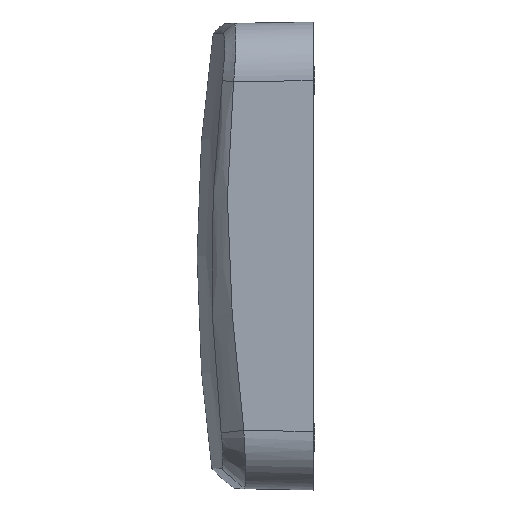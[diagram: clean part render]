
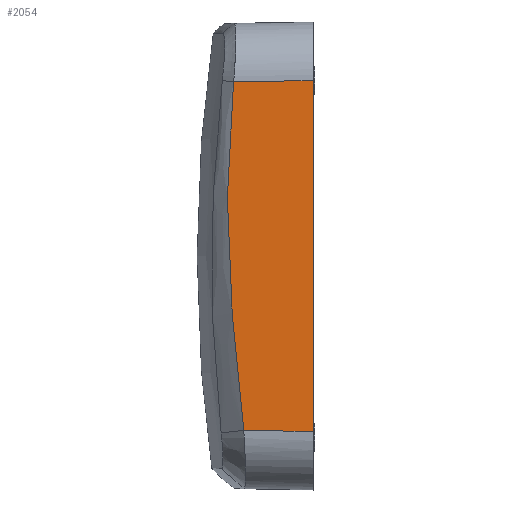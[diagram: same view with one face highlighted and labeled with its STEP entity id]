
A CAD part, left-side view. The second image highlights one B-rep face of the part: STEP entity #2054.
In plain terms, the highlighted planar face has unit normal (-1, 0.018, 0).
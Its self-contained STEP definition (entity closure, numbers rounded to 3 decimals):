
#61 = CARTESIAN_POINT ( 'NONE',  ( -44.763, 25.59, 29.764 ) ) ;
#140 = CARTESIAN_POINT ( 'NONE',  ( -44.788, 24.155, -27.085 ) ) ;
#183 = CARTESIAN_POINT ( 'NONE',  ( -44.779, 24.665, -22.37 ) ) ;
#238 = DIRECTION ( 'NONE',  ( -0.017, -1., -0.017 ) ) ;
#444 = VERTEX_POINT ( 'NONE', #7991 ) ;
#626 = CARTESIAN_POINT ( 'NONE',  ( -44.746, 26.579, 15.422 ) ) ;
#709 = CARTESIAN_POINT ( 'NONE',  ( -44.758, 25.862, 27.385 ) ) ;
#711 = VECTOR ( 'NONE', #238, 1000. ) ;
#788 = CARTESIAN_POINT ( 'NONE',  ( -44.766, 25.396, -14.947 ) ) ;
#869 = CARTESIAN_POINT ( 'NONE',  ( -44.793, 23.842, -29.795 ) ) ;
#874 = CARTESIAN_POINT ( 'NONE',  ( -44.775, 24.898, -20.128 ) ) ;
#1089 = AXIS2_PLACEMENT_3D ( 'NONE', #3952, #2734, #5943 ) ;
#1138 = DIRECTION ( 'NONE',  ( 0.017, 1., -0.017 ) ) ;
#1441 = CARTESIAN_POINT ( 'NONE',  ( -44.765, 25.446, -14.385 ) ) ;
#1486 = CARTESIAN_POINT ( 'NONE',  ( -44.75, 26.319, -2.364 ) ) ;
#1525 = CARTESIAN_POINT ( 'NONE',  ( -44.748, 26.421, -0.048 ) ) ;
#1568 = CARTESIAN_POINT ( 'NONE',  ( -44.766, 25.407, -14.822 ) ) ;
#1581 = ORIENTED_EDGE ( 'NONE', *, *, #1728, .T. ) ;
#1728 = EDGE_CURVE ( 'NONE', #3769, #444, #1786, .T. ) ;
#1786 = LINE ( 'NONE', #7158, #8306 ) ;
#2054 = ADVANCED_FACE ( 'NONE', ( #4706 ), #6110, .T. ) ;
#2087 = CARTESIAN_POINT ( 'NONE',  ( -44.779, 24.678, -22.247 ) ) ;
#2170 = CARTESIAN_POINT ( 'NONE',  ( -44.766, 25.42, -14.676 ) ) ;
#2215 = CARTESIAN_POINT ( 'NONE',  ( -44.748, 26.444, 0.503 ) ) ;
#2535 = CARTESIAN_POINT ( 'NONE',  ( -44.745, 26.592, 14.896 ) ) ;
#2694 = CARTESIAN_POINT ( 'NONE',  ( -44.745, 26.586, 15.139 ) ) ;
#2732 = CARTESIAN_POINT ( 'NONE',  ( -44.747, 26.511, 2.209 ) ) ;
#2734 = DIRECTION ( 'NONE',  ( -1., 0.017, 0. ) ) ;
#2775 = CARTESIAN_POINT ( 'NONE',  ( -44.744, 26.671, 8.868 ) ) ;
#2852 = CARTESIAN_POINT ( 'NONE',  ( -44.766, 25.4, -14.895 ) ) ;
#2896 = CARTESIAN_POINT ( 'NONE',  ( -44.779, 24.668, -22.35 ) ) ;
#3004 = CARTESIAN_POINT ( 'NONE',  ( -45., 12., -40. ) ) ;
#3141 = VERTEX_POINT ( 'NONE', #869 ) ;
#3342 = CARTESIAN_POINT ( 'NONE',  ( -44.746, 26.563, 15.986 ) ) ;
#3419 = CARTESIAN_POINT ( 'NONE',  ( -44.771, 25.119, -17.93 ) ) ;
#3499 = CARTESIAN_POINT ( 'NONE',  ( -44.764, 25.498, -13.804 ) ) ;
#3607 = LINE ( 'NONE', #7488, #711 ) ;
#3769 = VERTEX_POINT ( 'NONE', #4096 ) ;
#3821 = CARTESIAN_POINT ( 'NONE',  ( -44.745, 26.591, 14.937 ) ) ;
#3909 = CARTESIAN_POINT ( 'NONE',  ( -44.748, 26.438, 19.343 ) ) ;
#3952 = CARTESIAN_POINT ( 'NONE',  ( -45., 12., -40. ) ) ;
#4009 = ORIENTED_EDGE ( 'NONE', *, *, #7100, .T. ) ;
#4068 = CARTESIAN_POINT ( 'NONE',  ( -44.747, 26.468, 1.074 ) ) ;
#4096 = CARTESIAN_POINT ( 'NONE',  ( -45., 12., 30.002 ) ) ;
#4109 = CARTESIAN_POINT ( 'NONE',  ( -44.777, 24.783, -21.251 ) ) ;
#4373 = LINE ( 'NONE', #3004, #6931 ) ;
#4706 = FACE_OUTER_BOUND ( 'NONE', #7091, .T. ) ;
#4742 = CARTESIAN_POINT ( 'NONE',  ( -44.759, 25.786, -10.375 ) ) ;
#4782 = CARTESIAN_POINT ( 'NONE',  ( -44.778, 24.693, -22.104 ) ) ;
#4829 = CARTESIAN_POINT ( 'NONE',  ( -44.748, 26.432, 0.218 ) ) ;
#5157 = CARTESIAN_POINT ( 'NONE',  ( -44.744, 26.65, 12.5 ) ) ;
#5365 = CARTESIAN_POINT ( 'NONE',  ( -44.745, 26.583, 4.457 ) ) ;
#5475 = CARTESIAN_POINT ( 'NONE',  ( -45., 12., -30.002 ) ) ;
#5531 = CARTESIAN_POINT ( 'NONE',  ( -44.748, 26.423, 0.003 ) ) ;
#5532 = B_SPLINE_CURVE_WITH_KNOTS ( 'NONE', 3,
 ( #61, #709, #7921, #3909, #8497, #3342, #626, #2694, #8002, #3821, #2535, #5806, #5157, #2775, #5365, #2732, #4068, #2215, #4829, #7380, #5531, #8044, #1525, #7422, #1486, #6716, #4742, #7510, #3499, #1441, #2170, #1568, #2852, #6184, #788, #8169, #6840, #3419, #874, #4109, #6062, #4782, #2087, #6107, #2896, #183, #8215, #8089, #140, #7465 ),
 .UNSPECIFIED., .F., .F.,
 ( 4, 1, 1, 1, 1, 1, 1, 1, 2, 2, 1, 1, 1, 1, 1, 1, 1, 1, 2, 2, 1, 1, 1, 1, 1, 1, 1, 1, 2, 2, 1, 1, 1, 1, 1, 1, 1, 2, 2, 4 ),
 ( 0., 0.125, 0.188, 0.219, 0.234, 0.242, 0.246, 0.248, 0.249, 0.25, 0.375, 0.437, 0.469, 0.484, 0.492, 0.496, 0.498, 0.499, 0.5, 0.5, 0.625, 0.687, 0.719, 0.734, 0.742, 0.746, 0.748, 0.749, 0.75, 0.75, 0.812, 0.844, 0.859, 0.867, 0.871, 0.873, 0.874, 0.875, 0.875, 1. ),
 .UNSPECIFIED. ) ;
#5806 = CARTESIAN_POINT ( 'NONE',  ( -44.745, 26.593, 14.874 ) ) ;
#5943 = DIRECTION ( 'NONE',  ( -0.017, -1., 0. ) ) ;
#6062 = CARTESIAN_POINT ( 'NONE',  ( -44.778, 24.723, -21.819 ) ) ;
#6107 = CARTESIAN_POINT ( 'NONE',  ( -44.779, 24.671, -22.319 ) ) ;
#6110 = PLANE ( 'NONE',  #1089 ) ;
#6184 = CARTESIAN_POINT ( 'NONE',  ( -44.766, 25.398, -14.926 ) ) ;
#6596 = ORIENTED_EDGE ( 'NONE', *, *, #6893, .T. ) ;
#6716 = CARTESIAN_POINT ( 'NONE',  ( -44.754, 26.116, -5.947 ) ) ;
#6740 = EDGE_CURVE ( 'NONE', #3141, #7192, #3607, .T. ) ;
#6840 = CARTESIAN_POINT ( 'NONE',  ( -44.768, 25.289, -16.13 ) ) ;
#6893 = EDGE_CURVE ( 'NONE', #7192, #3769, #4373, .T. ) ;
#6931 = VECTOR ( 'NONE', #7753, 1000. ) ;
#7091 = EDGE_LOOP ( 'NONE', ( #1581, #4009, #7523, #6596 ) ) ;
#7100 = EDGE_CURVE ( 'NONE', #444, #3141, #5532, .T. ) ;
#7158 = CARTESIAN_POINT ( 'NONE',  ( -44.979, 13.221, 29.98 ) ) ;
#7192 = VERTEX_POINT ( 'NONE', #5475 ) ;
#7380 = CARTESIAN_POINT ( 'NONE',  ( -44.748, 26.426, 0.075 ) ) ;
#7422 = CARTESIAN_POINT ( 'NONE',  ( -44.748, 26.42, -0.06 ) ) ;
#7465 = CARTESIAN_POINT ( 'NONE',  ( -44.793, 23.842, -29.795 ) ) ;
#7488 = CARTESIAN_POINT ( 'NONE',  ( -45.003, 11.826, -30.005 ) ) ;
#7510 = CARTESIAN_POINT ( 'NONE',  ( -44.763, 25.597, -12.651 ) ) ;
#7523 = ORIENTED_EDGE ( 'NONE', *, *, #6740, .T. ) ;
#7753 = DIRECTION ( 'NONE',  ( 0., 0., 1. ) ) ;
#7921 = CARTESIAN_POINT ( 'NONE',  ( -44.752, 26.191, 23.737 ) ) ;
#7991 = CARTESIAN_POINT ( 'NONE',  ( -44.763, 25.59, 29.764 ) ) ;
#8002 = CARTESIAN_POINT ( 'NONE',  ( -44.745, 26.59, 14.998 ) ) ;
#8044 = CARTESIAN_POINT ( 'NONE',  ( -44.748, 26.422, -0.028 ) ) ;
#8089 = CARTESIAN_POINT ( 'NONE',  ( -44.783, 24.428, -24.617 ) ) ;
#8169 = CARTESIAN_POINT ( 'NONE',  ( -44.766, 25.395, -14.959 ) ) ;
#8215 = CARTESIAN_POINT ( 'NONE',  ( -44.779, 24.664, -22.382 ) ) ;
#8306 = VECTOR ( 'NONE', #1138, 1000. ) ;
#8497 = CARTESIAN_POINT ( 'NONE',  ( -44.746, 26.527, 17.111 ) ) ;
